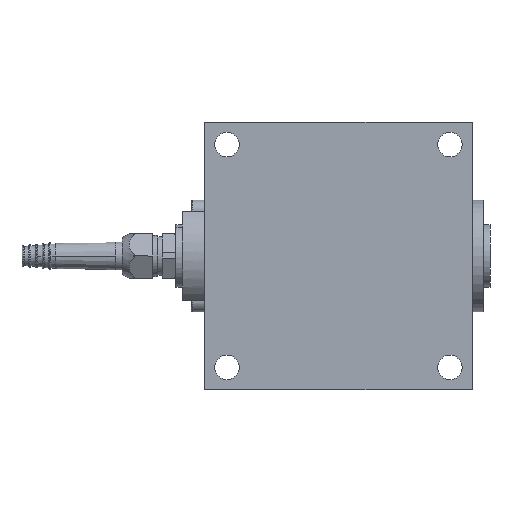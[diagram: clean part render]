
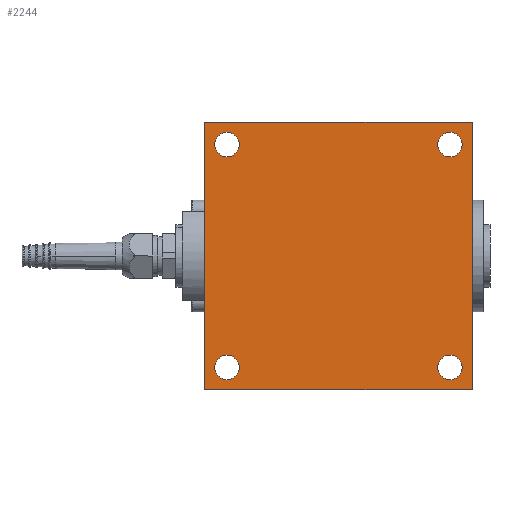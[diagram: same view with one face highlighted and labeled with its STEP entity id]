
A CAD part, front view. The second image highlights one B-rep face of the part: STEP entity #2244.
In plain terms, the highlighted planar face has unit normal (0, -1, 0).
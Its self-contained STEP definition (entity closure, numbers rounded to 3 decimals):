
#10 = EDGE_LOOP ( 'NONE', ( #5519, #6939, #6572, #1794 ) ) ;
#26 = AXIS2_PLACEMENT_3D ( 'NONE', #5090, #3675, #4242 ) ;
#81 = AXIS2_PLACEMENT_3D ( 'NONE', #1356, #2334, #6281 ) ;
#331 = ORIENTED_EDGE ( 'NONE', *, *, #7713, .T. ) ;
#412 = CARTESIAN_POINT ( 'NONE',  ( 50., 0., 50. ) ) ;
#438 = CIRCLE ( 'NONE', #81, 5.5 ) ;
#536 = CIRCLE ( 'NONE', #1581, 5.5 ) ;
#686 = ORIENTED_EDGE ( 'NONE', *, *, #5851, .F. ) ;
#746 = LINE ( 'NONE', #2340, #8381 ) ;
#875 = CARTESIAN_POINT ( 'NONE',  ( 60., 0., 60. ) ) ;
#895 = VERTEX_POINT ( 'NONE', #7351 ) ;
#1103 = CARTESIAN_POINT ( 'NONE',  ( 50., 0., -55.5 ) ) ;
#1157 = CIRCLE ( 'NONE', #10660, 5.5 ) ;
#1266 = VERTEX_POINT ( 'NONE', #1956 ) ;
#1332 = EDGE_CURVE ( 'NONE', #3343, #4178, #1157, .T. ) ;
#1356 = CARTESIAN_POINT ( 'NONE',  ( -50., 0., 50. ) ) ;
#1409 = DIRECTION ( 'NONE',  ( 0., 1., 0. ) ) ;
#1581 = AXIS2_PLACEMENT_3D ( 'NONE', #7096, #2942, #6291 ) ;
#1794 = ORIENTED_EDGE ( 'NONE', *, *, #2034, .F. ) ;
#1814 = DIRECTION ( 'NONE',  ( 0., 1., 0. ) ) ;
#1897 = EDGE_CURVE ( 'NONE', #895, #9259, #4284, .T. ) ;
#1956 = CARTESIAN_POINT ( 'NONE',  ( -60., 0., 60. ) ) ;
#2034 = EDGE_CURVE ( 'NONE', #1266, #5825, #4379, .T. ) ;
#2231 = AXIS2_PLACEMENT_3D ( 'NONE', #4763, #9038, #8090 ) ;
#2244 = ADVANCED_FACE ( 'NONE', ( #9898, #6575, #5760, #6522, #9093 ), #8930, .T. ) ;
#2334 = DIRECTION ( 'NONE',  ( 0., -1., 0. ) ) ;
#2340 = CARTESIAN_POINT ( 'NONE',  ( -60., 0., 60. ) ) ;
#2366 = DIRECTION ( 'NONE',  ( 0., 0., -1. ) ) ;
#2398 = VERTEX_POINT ( 'NONE', #2565 ) ;
#2410 = VERTEX_POINT ( 'NONE', #5095 ) ;
#2565 = CARTESIAN_POINT ( 'NONE',  ( 60., 0., -60. ) ) ;
#2731 = VERTEX_POINT ( 'NONE', #6842 ) ;
#2881 = AXIS2_PLACEMENT_3D ( 'NONE', #5922, #1814, #8479 ) ;
#2899 = ORIENTED_EDGE ( 'NONE', *, *, #1332, .T. ) ;
#2942 = DIRECTION ( 'NONE',  ( 0., 1., 0. ) ) ;
#3233 = DIRECTION ( 'NONE',  ( 0., -1., 0. ) ) ;
#3343 = VERTEX_POINT ( 'NONE', #8252 ) ;
#3524 = CARTESIAN_POINT ( 'NONE',  ( 50., 0., 55.5 ) ) ;
#3675 = DIRECTION ( 'NONE',  ( 0., -1., 0. ) ) ;
#3732 = CIRCLE ( 'NONE', #2881, 5.5 ) ;
#3939 = EDGE_LOOP ( 'NONE', ( #5130, #5855 ) ) ;
#4178 = VERTEX_POINT ( 'NONE', #5717 ) ;
#4242 = DIRECTION ( 'NONE',  ( 0., 0., 1. ) ) ;
#4263 = CARTESIAN_POINT ( 'NONE',  ( -60., 0., 60. ) ) ;
#4284 = CIRCLE ( 'NONE', #10410, 5.5 ) ;
#4341 = EDGE_CURVE ( 'NONE', #5825, #2398, #5927, .T. ) ;
#4379 = LINE ( 'NONE', #4263, #9891 ) ;
#4706 = VERTEX_POINT ( 'NONE', #3524 ) ;
#4763 = CARTESIAN_POINT ( 'NONE',  ( 0., 0., 0. ) ) ;
#4770 = EDGE_CURVE ( 'NONE', #4178, #3343, #536, .T. ) ;
#4817 = EDGE_CURVE ( 'NONE', #6843, #1266, #746, .T. ) ;
#5039 = EDGE_CURVE ( 'NONE', #4706, #2410, #8749, .T. ) ;
#5057 = CARTESIAN_POINT ( 'NONE',  ( 60., 0., 60. ) ) ;
#5090 = CARTESIAN_POINT ( 'NONE',  ( 50., 0., -50. ) ) ;
#5091 = ORIENTED_EDGE ( 'NONE', *, *, #4770, .T. ) ;
#5095 = CARTESIAN_POINT ( 'NONE',  ( 50., 0., 44.5 ) ) ;
#5130 = ORIENTED_EDGE ( 'NONE', *, *, #8494, .F. ) ;
#5351 = CARTESIAN_POINT ( 'NONE',  ( -60., 0., -60. ) ) ;
#5359 = EDGE_CURVE ( 'NONE', #2731, #6311, #7533, .T. ) ;
#5519 = ORIENTED_EDGE ( 'NONE', *, *, #4817, .F. ) ;
#5562 = LINE ( 'NONE', #5661, #9505 ) ;
#5661 = CARTESIAN_POINT ( 'NONE',  ( -60., 0., -60. ) ) ;
#5717 = CARTESIAN_POINT ( 'NONE',  ( -50., 0., -55.5 ) ) ;
#5760 = FACE_OUTER_BOUND ( 'NONE', #10, .T. ) ;
#5767 = DIRECTION ( 'NONE',  ( -1., 0., 0. ) ) ;
#5770 = CARTESIAN_POINT ( 'NONE',  ( 50., 0., -50. ) ) ;
#5825 = VERTEX_POINT ( 'NONE', #875 ) ;
#5851 = EDGE_CURVE ( 'NONE', #9259, #895, #6853, .T. ) ;
#5855 = ORIENTED_EDGE ( 'NONE', *, *, #5359, .F. ) ;
#5874 = DIRECTION ( 'NONE',  ( 1., 0., 0. ) ) ;
#5922 = CARTESIAN_POINT ( 'NONE',  ( 50., 0., 50. ) ) ;
#5927 = LINE ( 'NONE', #5057, #9586 ) ;
#5994 = ORIENTED_EDGE ( 'NONE', *, *, #5039, .T. ) ;
#6281 = DIRECTION ( 'NONE',  ( 0., 0., -1. ) ) ;
#6291 = DIRECTION ( 'NONE',  ( 0., 0., 1. ) ) ;
#6311 = VERTEX_POINT ( 'NONE', #7390 ) ;
#6522 = FACE_BOUND ( 'NONE', #10430, .T. ) ;
#6572 = ORIENTED_EDGE ( 'NONE', *, *, #4341, .F. ) ;
#6575 = FACE_BOUND ( 'NONE', #8134, .T. ) ;
#6842 = CARTESIAN_POINT ( 'NONE',  ( -50., 0., 44.5 ) ) ;
#6843 = VERTEX_POINT ( 'NONE', #5351 ) ;
#6853 = CIRCLE ( 'NONE', #26, 5.5 ) ;
#6939 = ORIENTED_EDGE ( 'NONE', *, *, #7470, .F. ) ;
#7096 = CARTESIAN_POINT ( 'NONE',  ( -50., 0., -50. ) ) ;
#7185 = EDGE_LOOP ( 'NONE', ( #9941, #686 ) ) ;
#7351 = CARTESIAN_POINT ( 'NONE',  ( 50., 0., -44.5 ) ) ;
#7390 = CARTESIAN_POINT ( 'NONE',  ( -50., 0., 55.5 ) ) ;
#7435 = DIRECTION ( 'NONE',  ( 0., 0., 1. ) ) ;
#7470 = EDGE_CURVE ( 'NONE', #2398, #6843, #5562, .T. ) ;
#7533 = CIRCLE ( 'NONE', #9807, 5.5 ) ;
#7713 = EDGE_CURVE ( 'NONE', #2410, #4706, #3732, .T. ) ;
#7859 = AXIS2_PLACEMENT_3D ( 'NONE', #412, #1409, #8663 ) ;
#8090 = DIRECTION ( 'NONE',  ( 0., 0., -1. ) ) ;
#8091 = CARTESIAN_POINT ( 'NONE',  ( -50., 0., 50. ) ) ;
#8134 = EDGE_LOOP ( 'NONE', ( #2899, #5091 ) ) ;
#8252 = CARTESIAN_POINT ( 'NONE',  ( -50., 0., -44.5 ) ) ;
#8263 = DIRECTION ( 'NONE',  ( 0., 0., 1. ) ) ;
#8380 = DIRECTION ( 'NONE',  ( 0., 0., -1. ) ) ;
#8381 = VECTOR ( 'NONE', #10640, 1000. ) ;
#8479 = DIRECTION ( 'NONE',  ( 0., 0., -1. ) ) ;
#8494 = EDGE_CURVE ( 'NONE', #6311, #2731, #438, .T. ) ;
#8663 = DIRECTION ( 'NONE',  ( 0., 0., -1. ) ) ;
#8749 = CIRCLE ( 'NONE', #7859, 5.5 ) ;
#8930 = PLANE ( 'NONE',  #2231 ) ;
#9038 = DIRECTION ( 'NONE',  ( 0., -1., 0. ) ) ;
#9093 = FACE_BOUND ( 'NONE', #7185, .T. ) ;
#9192 = CARTESIAN_POINT ( 'NONE',  ( -50., 0., -50. ) ) ;
#9259 = VERTEX_POINT ( 'NONE', #1103 ) ;
#9451 = DIRECTION ( 'NONE',  ( 0., 1., 0. ) ) ;
#9505 = VECTOR ( 'NONE', #5767, 1000. ) ;
#9586 = VECTOR ( 'NONE', #8380, 1000. ) ;
#9807 = AXIS2_PLACEMENT_3D ( 'NONE', #8091, #9850, #2366 ) ;
#9850 = DIRECTION ( 'NONE',  ( 0., -1., 0. ) ) ;
#9891 = VECTOR ( 'NONE', #5874, 1000. ) ;
#9898 = FACE_BOUND ( 'NONE', #3939, .T. ) ;
#9941 = ORIENTED_EDGE ( 'NONE', *, *, #1897, .F. ) ;
#10410 = AXIS2_PLACEMENT_3D ( 'NONE', #5770, #3233, #8263 ) ;
#10430 = EDGE_LOOP ( 'NONE', ( #5994, #331 ) ) ;
#10640 = DIRECTION ( 'NONE',  ( 0., 0., 1. ) ) ;
#10660 = AXIS2_PLACEMENT_3D ( 'NONE', #9192, #9451, #7435 ) ;
